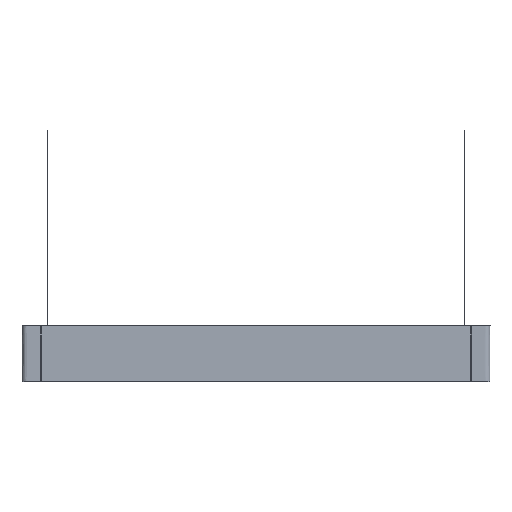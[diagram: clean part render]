
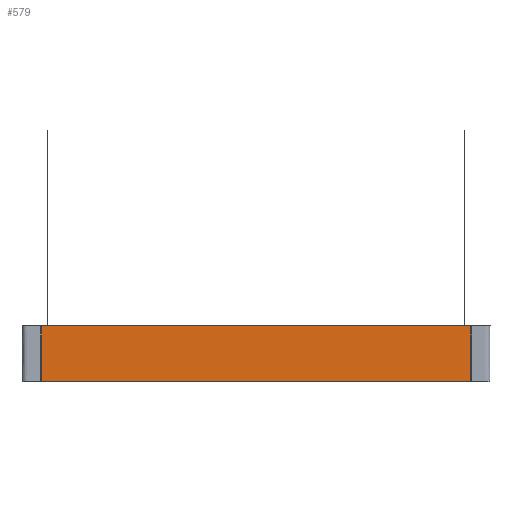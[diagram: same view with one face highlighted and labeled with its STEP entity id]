
A CAD part, front view. The second image highlights one B-rep face of the part: STEP entity #579.
In plain terms, the highlighted planar face has unit normal (0, -1, 0).
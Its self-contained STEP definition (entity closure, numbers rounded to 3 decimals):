
#314=B_SPLINE_CURVE_WITH_KNOTS('',1,(#7437,#7438),.UNSPECIFIED.,.F.,.F.,
(2,2),(0.,2316.),.UNSPECIFIED.);
#315=B_SPLINE_CURVE_WITH_KNOTS('',1,(#7439,#7440),.UNSPECIFIED.,.F.,.F.,
(2,2),(0.,300.),.UNSPECIFIED.);
#316=B_SPLINE_CURVE_WITH_KNOTS('',1,(#7441,#7442),.UNSPECIFIED.,.F.,.F.,
(2,2),(0.,2316.),.UNSPECIFIED.);
#317=B_SPLINE_CURVE_WITH_KNOTS('',1,(#7443,#7444),.UNSPECIFIED.,.F.,.F.,
(2,2),(0.,300.),.UNSPECIFIED.);
#579=ADVANCED_FACE('',(#771),#2958,.T.);
#771=FACE_OUTER_BOUND('',#963,.T.);
#963=EDGE_LOOP('',(#1548,#1549,#1550,#1551));
#1548=ORIENTED_EDGE('',*,*,#2332,.T.);
#1549=ORIENTED_EDGE('',*,*,#2333,.T.);
#1550=ORIENTED_EDGE('',*,*,#2334,.F.);
#1551=ORIENTED_EDGE('',*,*,#2335,.F.);
#2332=EDGE_CURVE('',#2835,#2836,#314,.T.);
#2333=EDGE_CURVE('',#2836,#2837,#315,.T.);
#2334=EDGE_CURVE('',#2838,#2837,#316,.T.);
#2335=EDGE_CURVE('',#2835,#2838,#317,.T.);
#2835=VERTEX_POINT('',#5429);
#2836=VERTEX_POINT('',#5430);
#2837=VERTEX_POINT('',#5431);
#2838=VERTEX_POINT('',#5432);
#2958=PLANE('',#3208);
#3208=AXIS2_PLACEMENT_3D('',#5210,#3342,$);
#3342=DIRECTION('',(0.,-1.,0.));
#5210=CARTESIAN_POINT('',(2863.623,699.078,25.739));
#5429=CARTESIAN_POINT('',(2863.623,699.078,25.739));
#5430=CARTESIAN_POINT('',(5179.623,699.078,25.739));
#5431=CARTESIAN_POINT('',(5179.623,699.078,325.739));
#5432=CARTESIAN_POINT('',(2863.623,699.078,325.739));
#7437=CARTESIAN_POINT('',(2863.623,699.078,25.739));
#7438=CARTESIAN_POINT('',(5179.623,699.078,25.739));
#7439=CARTESIAN_POINT('',(5179.623,699.078,25.739));
#7440=CARTESIAN_POINT('',(5179.623,699.078,325.739));
#7441=CARTESIAN_POINT('',(2863.623,699.078,325.739));
#7442=CARTESIAN_POINT('',(5179.623,699.078,325.739));
#7443=CARTESIAN_POINT('',(2863.623,699.078,25.739));
#7444=CARTESIAN_POINT('',(2863.623,699.078,325.739));
